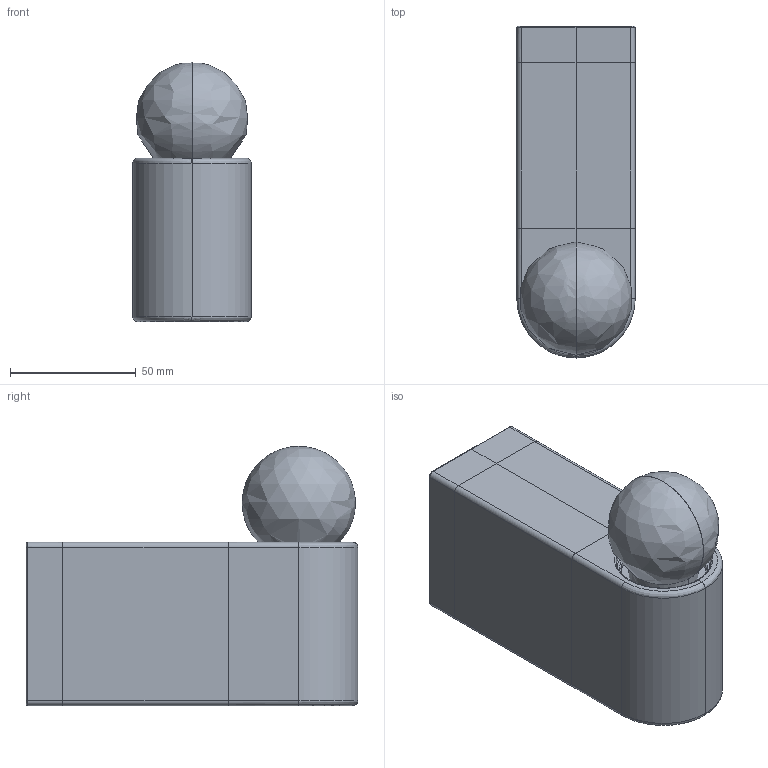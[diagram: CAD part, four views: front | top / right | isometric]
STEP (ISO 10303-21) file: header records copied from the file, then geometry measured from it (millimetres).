
FILE_DESCRIPTION(/* description */ (''),/* implementation_level */ '2;1');
FILE_NAME(/* name */ 'MA_White Porcelain Series D2_240V_2017',/* time_stamp */ '2020-11-30T11:50:57+00:00',/* author */ (''),/* organization */ (''),/* preprocessor_version */ 'ST-DEVELOPER v15',/* originating_system */ '',/* authorisation */ '');
FILE_SCHEMA (('AUTOMOTIVE_DESIGN'));
Length unit declared in the file: millimetre
Products named in the file (1): Document
Bounding box: 47 x 132 x 103.14 mm (x, y, z)
Surface area: 47238.8 mm2 (no closed solid volume)
Topology: 0 solids, 4 shells, 126 faces, 332 edges, 204 vertices
Faces by surface type: bspline 118, plane 8
Entity records: 6854 total; most frequent: CARTESIAN_POINT 5191, ORIENTED_EDGE 631, EDGE_CURVE 329, VERTEX_POINT 203, ADVANCED_FACE 126, FACE_OUTER_BOUND 126, EDGE_LOOP 126, B_SPLINE_CURVE_WITH_KNOTS 43
